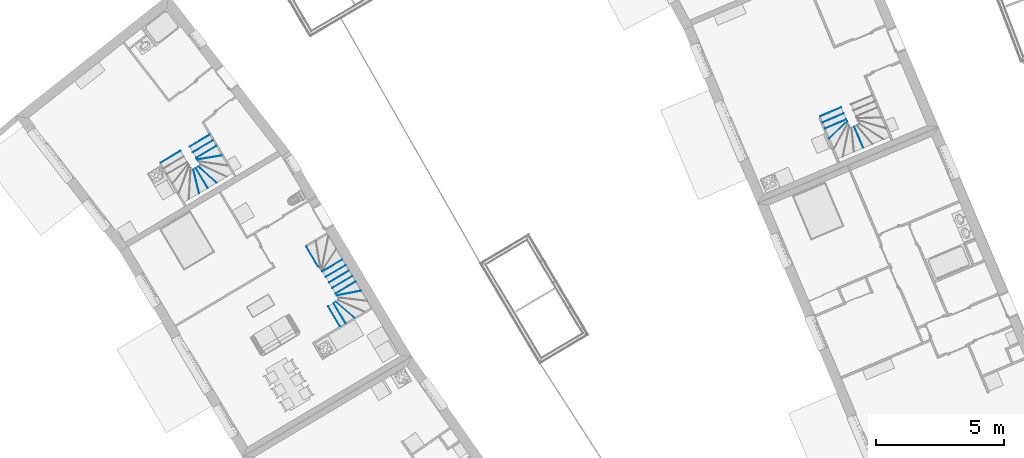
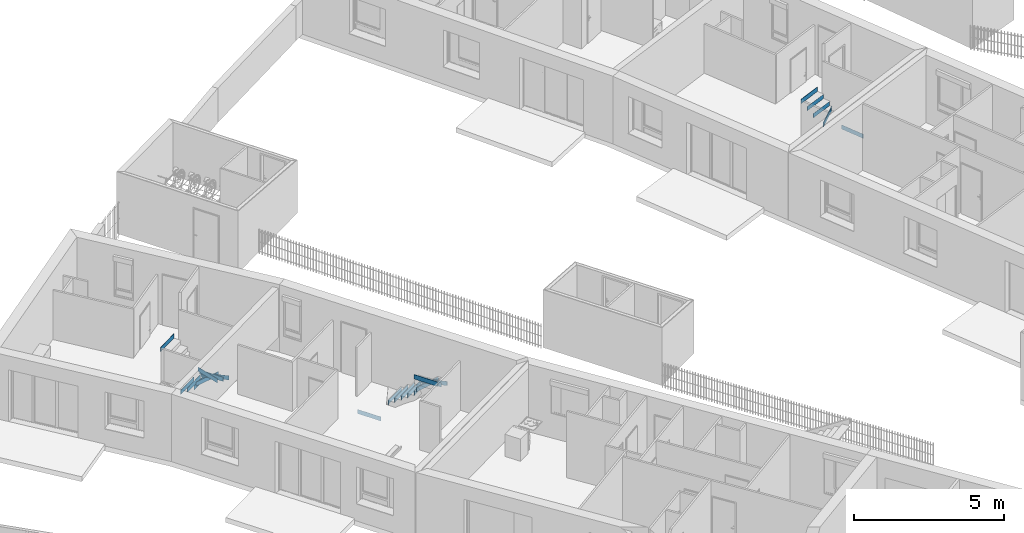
# One storey, part 104 of 195: 34 members, 5 elements without a shape of their own.
"""IFC2X3 building model written with IfcOpenShell, lengths in metres."""

from ifc_helpers import new_model, entity, si_unit, converted_unit, derived_unit, money_unit, direction, frame, origin_with_axes, place, context, subcontext, project, spatial, faceted_brep, material, type_object, element, aggregate, save


model = new_model("IFC2X3")

# Units and contexts
model_context = context("Model", 3, precision=1e-05, world=origin_with_axes(), true_north=direction((0.0, 1.0)))
body_context = subcontext(model_context, "Body", "Model", "MODEL_VIEW")
ifc_project = project(units=[si_unit("LENGTHUNIT", "METRE"), si_unit("AREAUNIT", "SQUARE_METRE"), si_unit("VOLUMEUNIT", "CUBIC_METRE"), converted_unit("PLANEANGLEUNIT", "DEGREE", entity("IfcPlaneAngleMeasure", 0.0174532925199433), si_unit("PLANEANGLEUNIT", "RADIAN"), dimensions=[0, 0, 0, 0, 0, 0, 0]), money_unit("CHF"), converted_unit("TIMEUNIT", "Year", entity("IfcTimeMeasure", 31557600.0), si_unit("TIMEUNIT", "SECOND"), dimensions=[0, 0, 1, 0, 0, 0, 0]), si_unit("MASSUNIT", "GRAM", prefix="KILO"), si_unit("THERMODYNAMICTEMPERATUREUNIT", "DEGREE_CELSIUS"), si_unit("LUMINOUSINTENSITYUNIT", "LUMEN"), si_unit("ENERGYUNIT", "JOULE", prefix="MEGA"), derived_unit("THERMALCONDUCTANCEUNIT", [(si_unit("POWERUNIT", "WATT"), 1), (si_unit("LENGTHUNIT", "METRE"), -1), (si_unit("THERMODYNAMICTEMPERATUREUNIT", "KELVIN"), -1)]), derived_unit("SPECIFICHEATCAPACITYUNIT", [(si_unit("ENERGYUNIT", "JOULE"), 1), (si_unit("MASSUNIT", "GRAM", prefix="KILO"), -1), (si_unit("THERMODYNAMICTEMPERATUREUNIT", "KELVIN"), -1)]), derived_unit("MASSDENSITYUNIT", [(si_unit("MASSUNIT", "GRAM", prefix="KILO"), 1), (si_unit("VOLUMEUNIT", "CUBIC_METRE"), -1)])], contexts=[model_context])

# Site, building, storey
site_placement = place(None, origin_with_axes())
site = spatial("IfcSite", under=ifc_project, at=site_placement, Name="Site", CompositionType="ELEMENT")
building_placement = place(site_placement, origin_with_axes())
building = spatial("IfcBuilding", under=site, at=building_placement, Name="Bâtiment", CompositionType="ELEMENT")
storey_placement = place(building_placement, origin_with_axes())
storey = spatial("IfcBuildingStorey", under=building, at=storey_placement, Name="rdc", CompositionType="ELEMENT", Elevation=0.0)

# Stair, members
stair_1_placement = place(storey_placement, frame((9545.76443159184, -1047.004357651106, 57.0), z_axis=(0.0, 0.0, 1.0), x_axis=(0.8590868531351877, 0.511829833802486, 0.0)))
stair_1 = element("IfcStair", 1, at=stair_1_placement, inside=storey, Name="ESC-014", ShapeType="NOTDEFINED")
ifc_material = material(Name="Lame d'air 275581351")
member_type = type_object("IfcMemberType", Name="IfcMember", PredefinedType="NOTDEFINED")
member_1_placement = place(stair_1_placement, frame((-0.068175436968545, -0.436061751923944, 0.1700000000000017), z_axis=(0.0, 0.0, 1.0), x_axis=(2.365001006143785e-07, -0.999999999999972, 0.0)))
member_1 = element("IfcMember", 2, at=member_1_placement, type_object=member_type, material=ifc_material, Name="C-MARCHE-231", context=body_context, shape_type="Brep", body=[
    faceted_brep([(0.4500000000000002, 0.01500000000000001, 0.0), (0.4500000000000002, 0.02500000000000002, 0.0), (-0.45, 0.02500000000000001, 0.0), (-0.45, 0.01500000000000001, 0.0), (0.4500000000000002, 0.01500000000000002, -0.17), (0.4500000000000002, 0.02500000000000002, -0.17), (-0.45, 0.02500000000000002, -0.17), (-0.45, 0.01500000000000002, -0.17)], [[[0, 1, 2, 3]], [[0, 4, 5, 1]], [[1, 5, 6, 2]], [[3, 2, 6, 7]], [[4, 0, 3, 7]], [[5, 4, 7, 6]]]),
])
member_2_placement = place(stair_1_placement, frame((0.4500002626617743, -1.111027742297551, 0.8900000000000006), z_axis=(0.0, 0.0, 1.0), x_axis=(-0.9999999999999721, -2.364139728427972e-07, 0.0)))
member_2 = element("IfcMember", 3, at=member_2_placement, type_object=member_type, material=ifc_material, Name="C-MARCHE-235", context=body_context, shape_type="Brep", body=[
    faceted_brep([(0.4500000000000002, 0.01500000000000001, 0.0), (0.4500000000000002, 0.02500000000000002, 0.0), (-0.45, 0.02500000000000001, 0.0), (-0.45, 0.01500000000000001, 0.0), (0.4500000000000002, 0.01500000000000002, -0.17), (0.4500000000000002, 0.02500000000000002, -0.17), (-0.45, 0.02500000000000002, -0.17), (-0.45, 0.01500000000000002, -0.17)], [[[0, 1, 2, 3]], [[0, 4, 5, 1]], [[1, 5, 6, 2]], [[3, 2, 6, 7]], [[4, 0, 3, 7]], [[5, 4, 7, 6]]]),
])
member_3_placement = place(stair_1_placement, frame((0.4500003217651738, -1.361027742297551, 1.07), z_axis=(0.0, 0.0, 1.0), x_axis=(-0.9999999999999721, -2.364139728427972e-07, 0.0)))
member_3 = element("IfcMember", 4, at=member_3_placement, type_object=member_type, material=ifc_material, Name="C-MARCHE-236", context=body_context, shape_type="Brep", body=[
    faceted_brep([(0.4500000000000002, 0.01500000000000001, 0.0), (0.4500000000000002, 0.02500000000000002, 0.0), (-0.45, 0.02500000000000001, 0.0), (-0.45, 0.01500000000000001, 0.0), (0.4500000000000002, 0.01500000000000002, -0.17), (0.4500000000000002, 0.02500000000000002, -0.17), (-0.45, 0.02500000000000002, -0.17), (-0.45, 0.01500000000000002, -0.17)], [[[0, 1, 2, 3]], [[0, 4, 5, 1]], [[1, 5, 6, 2]], [[3, 2, 6, 7]], [[4, 0, 3, 7]], [[5, 4, 7, 6]]]),
])
member_4_placement = place(stair_1_placement, frame((0.450000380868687, -1.611027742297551, 1.25), z_axis=(0.0, 0.0, 1.0), x_axis=(-0.9999999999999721, -2.364139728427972e-07, 0.0)))
member_4 = element("IfcMember", 5, at=member_4_placement, type_object=member_type, material=ifc_material, Name="C-MARCHE-237", context=body_context, shape_type="Brep", body=[
    faceted_brep([(0.4500000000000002, 0.01500000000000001, 0.0), (0.4500000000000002, 0.02500000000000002, 0.0), (-0.45, 0.02500000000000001, 0.0), (-0.45, 0.01500000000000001, 0.0), (0.4500000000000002, 0.01500000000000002, -0.17), (0.4500000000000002, 0.02500000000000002, -0.17), (-0.45, 0.02500000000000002, -0.17), (-0.45, 0.01500000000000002, -0.17)], [[[0, 1, 2, 3]], [[0, 4, 5, 1]], [[1, 5, 6, 2]], [[3, 2, 6, 7]], [[4, 0, 3, 7]], [[5, 4, 7, 6]]]),
])
member_5_placement = place(stair_1_placement, frame((0.4500004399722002, -1.861027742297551, 1.43), z_axis=(0.0, 0.0, 1.0), x_axis=(-0.9999999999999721, -2.364139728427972e-07, 0.0)))
member_5 = element("IfcMember", 6, at=member_5_placement, type_object=member_type, material=ifc_material, Name="C-MARCHE-238", context=body_context, shape_type="Brep", body=[
    faceted_brep([(0.4500000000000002, 0.01500000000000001, 0.0), (0.4500000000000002, 0.02500000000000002, 0.0), (-0.45, 0.02500000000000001, 0.0), (-0.45, 0.01500000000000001, 0.0), (0.4500000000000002, 0.01500000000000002, -0.17), (0.4500000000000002, 0.02500000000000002, -0.17), (-0.45, 0.02500000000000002, -0.17), (-0.45, 0.01500000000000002, -0.17)], [[[0, 1, 2, 3]], [[0, 4, 5, 1]], [[1, 5, 6, 2]], [[3, 2, 6, 7]], [[4, 0, 3, 7]], [[5, 4, 7, 6]]]),
])
member_6_placement = place(stair_1_placement, frame((0.4500004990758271, -2.111027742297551, 1.609999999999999), z_axis=(0.0, 0.0, 1.0), x_axis=(-0.9999999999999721, -2.364139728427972e-07, 0.0)))
member_6 = element("IfcMember", 7, at=member_6_placement, type_object=member_type, material=ifc_material, Name="C-MARCHE-239", context=body_context, shape_type="Brep", body=[
    faceted_brep([(0.4500000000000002, 0.01500000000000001, 0.0), (0.4500000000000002, 0.02500000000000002, 0.0), (-0.45, 0.02500000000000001, 0.0), (-0.45, 0.01500000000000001, 0.0), (0.4500000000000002, 0.01500000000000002, -0.17), (0.4500000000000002, 0.02500000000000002, -0.17), (-0.45, 0.02500000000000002, -0.17), (-0.45, 0.01500000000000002, -0.17)], [[[0, 1, 2, 3]], [[0, 4, 5, 1]], [[1, 5, 6, 2]], [[3, 2, 6, 7]], [[4, 0, 3, 7]], [[5, 4, 7, 6]]]),
])
member_7_placement = place(stair_1_placement, frame((0.4500005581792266, -2.361027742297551, 1.789999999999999), z_axis=(0.0, 0.0, 1.0), x_axis=(-0.9401689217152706, 0.3407086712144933, 0.0)))
member_7 = element("IfcMember", 8, at=member_7_placement, type_object=member_type, material=ifc_material, Name="C-MARCHE-240", context=body_context, shape_type="Brep", body=[
    faceted_brep([(0.4732015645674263, 0.01500000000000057, 0.0), (0.4695776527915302, 0.02500000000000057, 0.0), (-0.4876972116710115, 0.02500000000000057, 0.0), (-0.4840732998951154, 0.01500000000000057, 0.0), (0.4732015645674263, 0.01500000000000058, -0.1700000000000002), (0.4695776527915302, 0.02500000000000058, -0.1700000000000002), (-0.4876972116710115, 0.02500000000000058, -0.1700000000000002), (-0.4840732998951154, 0.01500000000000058, -0.1700000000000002)], [[[0, 1, 2, 3]], [[0, 4, 5, 1]], [[1, 5, 6, 2]], [[3, 2, 6, 7]], [[4, 0, 3, 7]], [[5, 4, 7, 6]]]),
])
member_8_placement = place(stair_1_placement, frame((0.01013755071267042, -2.864193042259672, 2.329999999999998), z_axis=(0.0, 0.0, 1.0), x_axis=(-0.315030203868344, 0.94908164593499, 0.0)))
member_8 = element("IfcMember", 9, at=member_8_placement, type_object=member_type, material=ifc_material, Name="C-MARCHE-243", context=body_context, shape_type="Brep", body=[
    faceted_brep([(0.4790011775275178, 0.01500000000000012, 0.0), (0.4823204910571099, 0.02500000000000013, 0.0), (-0.4659645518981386, 0.02499999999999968, 0.0), (-0.4692838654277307, 0.01499999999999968, 0.0), (0.4790011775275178, 0.01500000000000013, -0.1700000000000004), (0.4823204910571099, 0.02500000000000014, -0.1700000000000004), (-0.4659645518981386, 0.02499999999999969, -0.1700000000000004), (-0.4692838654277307, 0.01499999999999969, -0.1700000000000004)], [[[0, 1, 2, 3]], [[0, 4, 5, 1]], [[1, 5, 6, 2]], [[3, 2, 6, 7]], [[4, 0, 3, 7]], [[5, 4, 7, 6]]]),
])
member_9_placement = place(stair_1_placement, frame((-0.2398615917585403, -2.864307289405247, 2.509999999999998), z_axis=(0.0, 0.0, 1.0), x_axis=(-2.363824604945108e-07, 0.9999999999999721, 0.0)))
member_9 = element("IfcMember", 10, at=member_9_placement, type_object=member_type, material=ifc_material, Name="C-MARCHE-244", context=body_context, shape_type="Brep", body=[
    faceted_brep([(0.4500000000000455, 0.01500000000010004, 0.0), (0.4500000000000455, 0.02499999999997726, 0.0), (-0.4499999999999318, 0.02499999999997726, 0.0), (-0.4499999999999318, 0.01499999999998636, 0.0), (0.4500000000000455, 0.01500000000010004, -0.1700000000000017), (0.4500000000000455, 0.02499999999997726, -0.1700000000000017), (-0.4499999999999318, 0.02499999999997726, -0.1700000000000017), (-0.4499999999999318, 0.01499999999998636, -0.1700000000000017)], [[[0, 1, 2, 3]], [[0, 4, 5, 1]], [[1, 5, 6, 2]], [[3, 2, 6, 7]], [[4, 0, 3, 7]], [[5, 4, 7, 6]]]),
])
member_10_placement = place(stair_1_placement, frame((-0.489861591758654, -2.864307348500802, 2.700000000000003), z_axis=(0.0, 0.0, 1.0), x_axis=(-2.363824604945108e-07, 0.9999999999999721, 0.0)))
member_10 = element("IfcMember", 11, at=member_10_placement, type_object=member_type, material=ifc_material, Name="C-MARCHE-245", context=body_context, shape_type="Brep", body=[
    faceted_brep([(0.4499999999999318, 0.01499999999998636, 0.0), (0.4499999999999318, 0.02499999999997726, 0.0), (-0.4500000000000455, 0.02499999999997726, 0.0), (-0.4500000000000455, 0.01499999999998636, 0.0), (0.4499999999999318, 0.01499999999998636, -0.1799999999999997), (0.4499999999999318, 0.02499999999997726, -0.1799999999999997), (-0.4500000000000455, 0.02499999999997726, -0.1799999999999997), (-0.4500000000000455, 0.01499999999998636, -0.1799999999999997)], [[[0, 1, 2, 3]], [[0, 4, 5, 1]], [[1, 5, 6, 2]], [[3, 2, 6, 7]], [[4, 0, 3, 7]], [[5, 4, 7, 6]]]),
])
aggregate(stair_1, [member_1, member_2, member_3, member_4, member_5, member_6, member_7, member_8, member_9, member_10])

stair_2_placement = place(storey_placement, frame((9542.358293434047, -1043.385861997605, 57.0), z_axis=(0.0, 0.0, 1.0), x_axis=(0.5118296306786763, -0.8590869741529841, 0.0)))
stair_2 = element("IfcStair", 12, at=stair_2_placement, inside=storey, Name="ESC-014", ShapeType="NOTDEFINED")
member_11_placement = place(stair_2_placement, frame((-0.6126475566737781, -0.4260618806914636, 0.3500000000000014), z_axis=(0.0, 0.0, 1.0), x_axis=(2.365009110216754e-07, -0.9999999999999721, 0.0)))
member_11 = element("IfcMember", 13, at=member_11_placement, type_object=member_type, material=ifc_material, Name="C-MARCHE-232", context=body_context, shape_type="Brep", body=[
    faceted_brep([(0.46, 0.01500000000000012, 0.0), (0.46, 0.02500000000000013, 0.0), (-0.44, 0.02500000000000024, 0.0), (-0.44, 0.01500000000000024, 0.0), (0.46, 0.01500000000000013, -0.17), (0.46, 0.02500000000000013, -0.17), (-0.44, 0.02500000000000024, -0.17), (-0.44, 0.01500000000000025, -0.17)], [[[0, 1, 2, 3]], [[0, 4, 5, 1]], [[1, 5, 6, 2]], [[3, 2, 6, 7]], [[4, 0, 3, 7]], [[5, 4, 7, 6]]]),
])
member_12_placement = place(stair_2_placement, frame((-0.3574523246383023, -0.4260618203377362, 0.5300000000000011), z_axis=(0.0, 0.0, 1.0), x_axis=(2.3650091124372e-07, -0.9999999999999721, 0.0)))
member_12 = element("IfcMember", 14, at=member_12_placement, type_object=member_type, material=ifc_material, Name="C-MARCHE-233", context=body_context, shape_type="Brep", body=[
    faceted_brep([(0.46, 0.01500000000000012, 0.0), (0.46, 0.02500000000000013, 0.0), (-0.44, 0.02500000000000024, 0.0), (-0.44, 0.01500000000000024, 0.0), (0.46, 0.01500000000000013, -0.17), (0.46, 0.02500000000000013, -0.17), (-0.44, 0.02500000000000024, -0.17), (-0.44, 0.01500000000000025, -0.17)], [[[0, 1, 2, 3]], [[0, 4, 5, 1]], [[1, 5, 6, 2]], [[3, 2, 6, 7]], [[4, 0, 3, 7]], [[5, 4, 7, 6]]]),
])
member_13_placement = place(stair_2_placement, frame((-0.1022570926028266, -0.4260617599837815, 0.7100000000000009), z_axis=(0.0, 0.0, 1.0), x_axis=(-0.362570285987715, -0.9319564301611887, 0.0)))
member_13 = element("IfcMember", 15, at=member_13_placement, type_object=member_type, material=ifc_material, Name="C-MARCHE-234", context=body_context, shape_type="Brep", body=[
    faceted_brep([(0.4877497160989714, 0.01500000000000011, 0.0), (0.483859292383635, 0.02500000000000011, 0.0), (-0.4818511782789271, 0.02500000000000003, 0.0), (-0.4779607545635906, 0.01500000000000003, 0.0), (0.4877497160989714, 0.01500000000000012, -0.17), (0.483859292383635, 0.02500000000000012, -0.17), (-0.4818511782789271, 0.02500000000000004, -0.17), (-0.4779607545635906, 0.01500000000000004, -0.17)], [[[0, 1, 2, 3]], [[0, 4, 5, 1]], [[1, 5, 6, 2]], [[3, 2, 6, 7]], [[4, 0, 3, 7]], [[5, 4, 7, 6]]]),
])
member_14_placement = place(stair_2_placement, frame((0.4561912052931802, -0.8269874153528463, 1.25), z_axis=(0.0, 0.0, 1.0), x_axis=(-0.9542231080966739, -0.2990957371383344, 0.0)))
member_14 = element("IfcMember", 16, at=member_14_placement, type_object=member_type, material=ifc_material, Name="C-MARCHE-237", context=body_context, shape_type="Brep", body=[
    faceted_brep([(0.4827774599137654, 0.01499999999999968, 0.0), (0.4859118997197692, 0.02499999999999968, 0.0), (-0.4572636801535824, 0.02499999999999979, 0.0), (-0.4603981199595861, 0.01499999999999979, 0.0), (0.4827774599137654, 0.01499999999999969, -0.1700000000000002), (0.4859118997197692, 0.02499999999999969, -0.1700000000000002), (-0.4572636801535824, 0.0249999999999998, -0.1700000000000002), (-0.4603981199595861, 0.0149999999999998, -0.1700000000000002)], [[[0, 1, 2, 3]], [[0, 4, 5, 1]], [[1, 5, 6, 2]], [[3, 2, 6, 7]], [[4, 0, 3, 7]], [[5, 4, 7, 6]]]),
])
member_15_placement = place(stair_2_placement, frame((0.4600002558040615, -1.082019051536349, 1.43), z_axis=(0.0, 0.0, 1.0), x_axis=(-0.9999999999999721, -2.364141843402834e-07, 0.0)))
member_15 = element("IfcMember", 17, at=member_15_placement, type_object=member_type, material=ifc_material, Name="C-MARCHE-238", context=body_context, shape_type="Brep", body=[
    faceted_brep([(0.46, 0.01500000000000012, 0.0), (0.46, 0.02500000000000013, 0.0), (-0.44, 0.02500000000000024, 0.0), (-0.44, 0.01500000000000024, 0.0), (0.46, 0.01500000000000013, -0.17), (0.46, 0.02500000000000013, -0.17), (-0.44, 0.02500000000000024, -0.17), (-0.44, 0.01500000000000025, -0.17)], [[[0, 1, 2, 3]], [[0, 4, 5, 1]], [[1, 5, 6, 2]], [[3, 2, 6, 7]], [[4, 0, 3, 7]], [[5, 4, 7, 6]]]),
])
member_16_placement = place(stair_2_placement, frame((0.4561913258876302, -1.337050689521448, 1.609999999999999), z_axis=(0.0, 0.0, 1.0), x_axis=(-0.954223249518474, 0.299095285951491, 0.0)))
member_16 = element("IfcMember", 18, at=member_16_placement, type_object=member_type, material=ifc_material, Name="C-MARCHE-239", context=body_context, shape_type="Brep", body=[
    faceted_brep([(0.4733741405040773, 0.01500000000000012, 0.0), (0.4702397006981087, 0.02500000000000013, 0.0), (-0.4729358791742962, 0.0249999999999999, 0.0), (-0.4698014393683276, 0.0149999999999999, 0.0), (0.4733741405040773, 0.01500000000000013, -0.1699999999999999), (0.4702397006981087, 0.02500000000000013, -0.1699999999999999), (-0.4729358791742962, 0.02499999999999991, -0.1699999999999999), (-0.4698014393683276, 0.01499999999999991, -0.1699999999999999)], [[[0, 1, 2, 3]], [[0, 4, 5, 1]], [[1, 5, 6, 2]], [[3, 2, 6, 7]], [[4, 0, 3, 7]], [[5, 4, 7, 6]]]),
])
member_17_placement = place(stair_2_placement, frame((-0.8678427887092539, -0.426061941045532, 0.1700000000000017), z_axis=(0.0, 0.0, 1.0), x_axis=(2.365009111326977e-07, -0.999999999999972, 0.0)))
member_17 = element("IfcMember", 19, at=member_17_placement, type_object=member_type, material=ifc_material, Name="C-MARCHE-231", context=body_context, shape_type="Brep", body=[
    faceted_brep([(0.46, 0.01500000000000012, 0.0), (0.46, 0.02500000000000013, 0.0), (-0.44, 0.02500000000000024, 0.0), (-0.44, 0.01500000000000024, 0.0), (0.46, 0.01500000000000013, -0.17), (0.46, 0.02500000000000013, -0.17), (-0.44, 0.02500000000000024, -0.17), (-0.44, 0.01500000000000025, -0.17)], [[[0, 1, 2, 3]], [[0, 4, 5, 1]], [[1, 5, 6, 2]], [[3, 2, 6, 7]], [[4, 0, 3, 7]], [[5, 4, 7, 6]]]),
])
aggregate(stair_2, [member_11, member_12, member_13, member_14, member_15, member_16, member_17])

stair_3_placement = place(storey_placement, frame((9568.089270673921, -1041.901953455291, 57.0), z_axis=(0.0, 0.0, 1.0), x_axis=(0.3885666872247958, -0.9214206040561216, 0.0)))
stair_3 = element("IfcStair", 20, at=stair_3_placement, inside=storey, Name="ESC-014", ShapeType="NOTDEFINED")
member_18_placement = place(stair_3_placement, frame((0.4600002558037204, -1.082019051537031, 1.43), z_axis=(0.0, 0.0, 1.0), x_axis=(-0.9999999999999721, -2.364141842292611e-07, 0.0)))
member_18 = element("IfcMember", 21, at=member_18_placement, type_object=member_type, material=ifc_material, Name="C-MARCHE-238", context=body_context, shape_type="Brep", body=[
    faceted_brep([(0.4599999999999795, 0.01499999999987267, 0.0), (0.4600000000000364, 0.02499999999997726, 0.0), (-0.4400000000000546, 0.02499999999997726, 0.0), (-0.4399999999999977, 0.01499999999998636, 0.0), (0.4599999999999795, 0.01499999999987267, -0.1700000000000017), (0.4600000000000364, 0.02499999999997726, -0.1700000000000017), (-0.4400000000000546, 0.02499999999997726, -0.1700000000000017), (-0.4399999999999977, 0.01499999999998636, -0.1700000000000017)], [[[0, 1, 2, 3]], [[0, 4, 5, 1]], [[1, 5, 6, 2]], [[3, 2, 6, 7]], [[4, 0, 3, 7]], [[5, 4, 7, 6]]]),
])
member_19_placement = place(stair_3_placement, frame((-0.102256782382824, -1.737976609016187, 2.149999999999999), z_axis=(0.0, 0.0, 1.0), x_axis=(-0.3625707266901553, 0.9319562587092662, 0.0)))
member_19 = element("IfcMember", 22, at=member_19_placement, type_object=member_type, material=ifc_material, Name="C-MARCHE-242", context=body_context, shape_type="Brep", body=[
    faceted_brep([(0.4994209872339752, 0.01500000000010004, 0.0), (0.5033114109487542, 0.02500000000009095, 0.0), (-0.4623990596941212, 0.02500000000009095, 0.0), (-0.4662894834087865, 0.01499999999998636, 0.0), (0.4994209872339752, 0.01500000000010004, -0.1700000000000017), (0.5033114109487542, 0.02500000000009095, -0.1700000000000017), (-0.4623990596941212, 0.02500000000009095, -0.1700000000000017), (-0.4662894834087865, 0.01499999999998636, -0.1700000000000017)], [[[0, 1, 2, 3]], [[0, 4, 5, 1]], [[1, 5, 6, 2]], [[3, 2, 6, 7]], [[4, 0, 3, 7]], [[5, 4, 7, 6]]]),
])
member_20_placement = place(stair_3_placement, frame((-0.3574520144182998, -1.737976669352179, 2.329999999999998), z_axis=(0.0, 0.0, 1.0), x_axis=(-2.36430376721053e-07, 0.9999999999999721, 0.0)))
member_20 = element("IfcMember", 23, at=member_20_placement, type_object=member_type, material=ifc_material, Name="C-MARCHE-243", context=body_context, shape_type="Brep", body=[
    faceted_brep([(0.4599999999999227, 0.01499999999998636, 0.0), (0.4600000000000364, 0.02500000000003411, 0.0), (-0.4399999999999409, 0.02499999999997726, 0.0), (-0.4399999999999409, 0.01499999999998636, 0.0), (0.4599999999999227, 0.01499999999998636, -0.1700000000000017), (0.4600000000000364, 0.02500000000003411, -0.1700000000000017), (-0.4399999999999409, 0.02499999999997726, -0.1700000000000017), (-0.4399999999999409, 0.01499999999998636, -0.1700000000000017)], [[[0, 1, 2, 3]], [[0, 4, 5, 1]], [[1, 5, 6, 2]], [[3, 2, 6, 7]], [[4, 0, 3, 7]], [[5, 4, 7, 6]]]),
])
member_21_placement = place(stair_3_placement, frame((-0.8678424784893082, -1.737976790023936, 2.700000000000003), z_axis=(0.0, 0.0, 1.0), x_axis=(-2.36430376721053e-07, 0.9999999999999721, 0.0)))
member_21 = element("IfcMember", 24, at=member_21_placement, type_object=member_type, material=ifc_material, Name="C-MARCHE-245", context=body_context, shape_type="Brep", body=[
    faceted_brep([(0.4600000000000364, 0.01499999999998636, 0.0), (0.4599999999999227, 0.02499999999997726, 0.0), (-0.4400000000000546, 0.02499999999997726, 0.0), (-0.4400000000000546, 0.01499999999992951, 0.0), (0.4600000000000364, 0.01499999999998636, -0.1799999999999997), (0.4599999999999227, 0.02499999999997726, -0.1799999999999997), (-0.4400000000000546, 0.02499999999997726, -0.1799999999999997), (-0.4400000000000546, 0.01499999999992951, -0.1799999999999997)], [[[0, 1, 2, 3]], [[0, 4, 5, 1]], [[1, 5, 6, 2]], [[3, 2, 6, 7]], [[4, 0, 3, 7]], [[5, 4, 7, 6]]]),
])
member_22_placement = place(stair_3_placement, frame((-0.6126472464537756, -1.737976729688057, 2.509999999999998), z_axis=(0.0, 0.0, 1.0), x_axis=(-2.36430376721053e-07, 0.9999999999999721, 0.0)))
member_22 = element("IfcMember", 25, at=member_22_placement, type_object=member_type, material=ifc_material, Name="C-MARCHE-244", context=body_context, shape_type="Brep", body=[
    faceted_brep([(0.4599999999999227, 0.0150000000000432, 0.0), (0.4599999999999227, 0.02499999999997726, 0.0), (-0.4399999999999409, 0.02499999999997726, 0.0), (-0.4399999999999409, 0.01499999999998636, 0.0), (0.4599999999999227, 0.0150000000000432, -0.1700000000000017), (0.4599999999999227, 0.02499999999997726, -0.1700000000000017), (-0.4399999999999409, 0.02499999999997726, -0.1700000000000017), (-0.4399999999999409, 0.01499999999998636, -0.1700000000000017)], [[[0, 1, 2, 3]], [[0, 4, 5, 1]], [[1, 5, 6, 2]], [[3, 2, 6, 7]], [[4, 0, 3, 7]], [[5, 4, 7, 6]]]),
])
aggregate(stair_3, [member_18, member_19, member_20, member_21, member_22])

stair_4_placement = place(storey_placement, frame((9542.358293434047, -1043.385861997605, 57.0), z_axis=(0.0, 0.0, 1.0), x_axis=(0.5118296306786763, -0.8590869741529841, 0.0)))
stair_4 = element("IfcStair", 26, at=stair_4_placement, inside=storey, Name="ESC-014", ShapeType="NOTDEFINED")
member_23_placement = place(stair_4_placement, frame((-0.6126475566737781, -0.4260618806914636, 0.3500000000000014), z_axis=(0.0, 0.0, 1.0), x_axis=(2.365009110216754e-07, -0.9999999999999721, 0.0)))
member_23 = element("IfcMember", 27, at=member_23_placement, type_object=member_type, material=ifc_material, Name="C-MARCHE-232", context=body_context, shape_type="Brep", body=[
    faceted_brep([(0.46, 0.01500000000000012, 0.0), (0.46, 0.02500000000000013, 0.0), (-0.44, 0.02500000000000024, 0.0), (-0.44, 0.01500000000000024, 0.0), (0.46, 0.01500000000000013, -0.17), (0.46, 0.02500000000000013, -0.17), (-0.44, 0.02500000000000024, -0.17), (-0.44, 0.01500000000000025, -0.17)], [[[0, 1, 2, 3]], [[0, 4, 5, 1]], [[1, 5, 6, 2]], [[3, 2, 6, 7]], [[4, 0, 3, 7]], [[5, 4, 7, 6]]]),
])
member_24_placement = place(stair_4_placement, frame((-0.3574523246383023, -0.4260618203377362, 0.5300000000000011), z_axis=(0.0, 0.0, 1.0), x_axis=(2.3650091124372e-07, -0.9999999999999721, 0.0)))
member_24 = element("IfcMember", 28, at=member_24_placement, type_object=member_type, material=ifc_material, Name="C-MARCHE-233", context=body_context, shape_type="Brep", body=[
    faceted_brep([(0.46, 0.01500000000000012, 0.0), (0.46, 0.02500000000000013, 0.0), (-0.44, 0.02500000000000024, 0.0), (-0.44, 0.01500000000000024, 0.0), (0.46, 0.01500000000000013, -0.17), (0.46, 0.02500000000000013, -0.17), (-0.44, 0.02500000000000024, -0.17), (-0.44, 0.01500000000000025, -0.17)], [[[0, 1, 2, 3]], [[0, 4, 5, 1]], [[1, 5, 6, 2]], [[3, 2, 6, 7]], [[4, 0, 3, 7]], [[5, 4, 7, 6]]]),
])
member_25_placement = place(stair_4_placement, frame((-0.8678427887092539, -0.426061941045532, 0.1700000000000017), z_axis=(0.0, 0.0, 1.0), x_axis=(2.365009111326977e-07, -0.999999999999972, 0.0)))
member_25 = element("IfcMember", 29, at=member_25_placement, type_object=member_type, material=ifc_material, Name="C-MARCHE-231", context=body_context, shape_type="Brep", body=[
    faceted_brep([(0.46, 0.01500000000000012, 0.0), (0.46, 0.02500000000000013, 0.0), (-0.44, 0.02500000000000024, 0.0), (-0.44, 0.01500000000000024, 0.0), (0.46, 0.01500000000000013, -0.17), (0.46, 0.02500000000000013, -0.17), (-0.44, 0.02500000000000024, -0.17), (-0.44, 0.01500000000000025, -0.17)], [[[0, 1, 2, 3]], [[0, 4, 5, 1]], [[1, 5, 6, 2]], [[3, 2, 6, 7]], [[4, 0, 3, 7]], [[5, 4, 7, 6]]]),
])
member_26_placement = place(stair_4_placement, frame((-0.1022570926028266, -0.4260617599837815, 0.7100000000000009), z_axis=(0.0, 0.0, 1.0), x_axis=(-0.362570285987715, -0.9319564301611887, 0.0)))
member_26 = element("IfcMember", 30, at=member_26_placement, type_object=member_type, material=ifc_material, Name="C-MARCHE-234", context=body_context, shape_type="Brep", body=[
    faceted_brep([(0.4877497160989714, 0.01500000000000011, 0.0), (0.483859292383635, 0.02500000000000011, 0.0), (-0.4818511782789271, 0.02500000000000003, 0.0), (-0.4779607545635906, 0.01500000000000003, 0.0), (0.4877497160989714, 0.01500000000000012, -0.17), (0.483859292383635, 0.02500000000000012, -0.17), (-0.4818511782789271, 0.02500000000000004, -0.17), (-0.4779607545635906, 0.01500000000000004, -0.17)], [[[0, 1, 2, 3]], [[0, 4, 5, 1]], [[1, 5, 6, 2]], [[3, 2, 6, 7]], [[4, 0, 3, 7]], [[5, 4, 7, 6]]]),
])
member_27_placement = place(stair_4_placement, frame((0.4561912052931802, -0.8269874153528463, 1.25), z_axis=(0.0, 0.0, 1.0), x_axis=(-0.9542231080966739, -0.2990957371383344, 0.0)))
member_27 = element("IfcMember", 31, at=member_27_placement, type_object=member_type, material=ifc_material, Name="C-MARCHE-237", context=body_context, shape_type="Brep", body=[
    faceted_brep([(0.4827774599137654, 0.01499999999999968, 0.0), (0.4859118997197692, 0.02499999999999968, 0.0), (-0.4572636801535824, 0.02499999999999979, 0.0), (-0.4603981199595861, 0.01499999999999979, 0.0), (0.4827774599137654, 0.01499999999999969, -0.1700000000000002), (0.4859118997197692, 0.02499999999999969, -0.1700000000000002), (-0.4572636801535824, 0.0249999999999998, -0.1700000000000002), (-0.4603981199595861, 0.0149999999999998, -0.1700000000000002)], [[[0, 1, 2, 3]], [[0, 4, 5, 1]], [[1, 5, 6, 2]], [[3, 2, 6, 7]], [[4, 0, 3, 7]], [[5, 4, 7, 6]]]),
])
member_28_placement = place(stair_4_placement, frame((0.4600002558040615, -1.082019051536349, 1.43), z_axis=(0.0, 0.0, 1.0), x_axis=(-0.9999999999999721, -2.364141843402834e-07, 0.0)))
member_28 = element("IfcMember", 32, at=member_28_placement, type_object=member_type, material=ifc_material, Name="C-MARCHE-238", context=body_context, shape_type="Brep", body=[
    faceted_brep([(0.46, 0.01500000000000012, 0.0), (0.46, 0.02500000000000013, 0.0), (-0.44, 0.02500000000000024, 0.0), (-0.44, 0.01500000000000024, 0.0), (0.46, 0.01500000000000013, -0.17), (0.46, 0.02500000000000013, -0.17), (-0.44, 0.02500000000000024, -0.17), (-0.44, 0.01500000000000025, -0.17)], [[[0, 1, 2, 3]], [[0, 4, 5, 1]], [[1, 5, 6, 2]], [[3, 2, 6, 7]], [[4, 0, 3, 7]], [[5, 4, 7, 6]]]),
])
member_29_placement = place(stair_4_placement, frame((0.4561913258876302, -1.337050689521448, 1.609999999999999), z_axis=(0.0, 0.0, 1.0), x_axis=(-0.954223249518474, 0.299095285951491, 0.0)))
member_29 = element("IfcMember", 33, at=member_29_placement, type_object=member_type, material=ifc_material, Name="C-MARCHE-239", context=body_context, shape_type="Brep", body=[
    faceted_brep([(0.4733741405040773, 0.01500000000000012, 0.0), (0.4702397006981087, 0.02500000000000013, 0.0), (-0.4729358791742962, 0.0249999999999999, 0.0), (-0.4698014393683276, 0.0149999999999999, 0.0), (0.4733741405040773, 0.01500000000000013, -0.1699999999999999), (0.4702397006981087, 0.02500000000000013, -0.1699999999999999), (-0.4729358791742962, 0.02499999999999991, -0.1699999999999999), (-0.4698014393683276, 0.01499999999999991, -0.1699999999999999)], [[[0, 1, 2, 3]], [[0, 4, 5, 1]], [[1, 5, 6, 2]], [[3, 2, 6, 7]], [[4, 0, 3, 7]], [[5, 4, 7, 6]]]),
])
member_30_placement = place(stair_4_placement, frame((-0.8678424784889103, -1.737976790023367, 2.700000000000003), z_axis=(0.0, 0.0, 1.0), x_axis=(-2.364303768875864e-07, 0.9999999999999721, 0.0)))
member_30 = element("IfcMember", 34, at=member_30_placement, type_object=member_type, material=ifc_material, Name="C-MARCHE-245", context=body_context, shape_type="Brep", body=[
    faceted_brep([(0.4599999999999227, 0.01499999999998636, 0.0), (0.4599999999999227, 0.02499999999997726, 0.0), (-0.4400000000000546, 0.02499999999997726, 0.0), (-0.4400000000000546, 0.01499999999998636, 0.0), (0.4599999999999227, 0.01499999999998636, -0.1799999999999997), (0.4599999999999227, 0.02499999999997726, -0.1799999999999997), (-0.4400000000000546, 0.02499999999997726, -0.1799999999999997), (-0.4400000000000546, 0.01499999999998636, -0.1799999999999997)], [[[0, 1, 2, 3]], [[0, 4, 5, 1]], [[1, 5, 6, 2]], [[3, 2, 6, 7]], [[4, 0, 3, 7]], [[5, 4, 7, 6]]]),
])
aggregate(stair_4, [member_23, member_24, member_25, member_26, member_27, member_28, member_29, member_30])

stair_5_placement = place(storey_placement, frame((9568.089270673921, -1041.901953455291, 57.0), z_axis=(0.0, 0.0, 1.0), x_axis=(0.3885666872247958, -0.9214206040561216, 0.0)))
stair_5 = element("IfcStair", 35, at=stair_5_placement, inside=storey, Name="ESC-014", ShapeType="NOTDEFINED")
member_31_placement = place(stair_5_placement, frame((-0.102256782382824, -1.737976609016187, 2.149999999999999), z_axis=(0.0, 0.0, 1.0), x_axis=(-0.3625707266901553, 0.9319562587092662, 0.0)))
member_31 = element("IfcMember", 36, at=member_31_placement, type_object=member_type, material=ifc_material, Name="C-MARCHE-242", context=body_context, shape_type="Brep", body=[
    faceted_brep([(0.4994209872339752, 0.01500000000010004, 0.0), (0.5033114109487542, 0.02500000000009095, 0.0), (-0.4623990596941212, 0.02500000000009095, 0.0), (-0.4662894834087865, 0.01499999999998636, 0.0), (0.4994209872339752, 0.01500000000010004, -0.1700000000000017), (0.5033114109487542, 0.02500000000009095, -0.1700000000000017), (-0.4623990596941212, 0.02500000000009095, -0.1700000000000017), (-0.4662894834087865, 0.01499999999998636, -0.1700000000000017)], [[[0, 1, 2, 3]], [[0, 4, 5, 1]], [[1, 5, 6, 2]], [[3, 2, 6, 7]], [[4, 0, 3, 7]], [[5, 4, 7, 6]]]),
])
member_32_placement = place(stair_5_placement, frame((-0.3574520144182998, -1.737976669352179, 2.329999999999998), z_axis=(0.0, 0.0, 1.0), x_axis=(-2.36430376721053e-07, 0.9999999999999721, 0.0)))
member_32 = element("IfcMember", 37, at=member_32_placement, type_object=member_type, material=ifc_material, Name="C-MARCHE-243", context=body_context, shape_type="Brep", body=[
    faceted_brep([(0.4599999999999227, 0.01499999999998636, 0.0), (0.4600000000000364, 0.02500000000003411, 0.0), (-0.4399999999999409, 0.02499999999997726, 0.0), (-0.4399999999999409, 0.01499999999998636, 0.0), (0.4599999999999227, 0.01499999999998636, -0.1700000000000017), (0.4600000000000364, 0.02500000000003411, -0.1700000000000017), (-0.4399999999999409, 0.02499999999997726, -0.1700000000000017), (-0.4399999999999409, 0.01499999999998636, -0.1700000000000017)], [[[0, 1, 2, 3]], [[0, 4, 5, 1]], [[1, 5, 6, 2]], [[3, 2, 6, 7]], [[4, 0, 3, 7]], [[5, 4, 7, 6]]]),
])
member_33_placement = place(stair_5_placement, frame((-0.6126472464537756, -1.737976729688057, 2.509999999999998), z_axis=(0.0, 0.0, 1.0), x_axis=(-2.36430376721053e-07, 0.9999999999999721, 0.0)))
member_33 = element("IfcMember", 38, at=member_33_placement, type_object=member_type, material=ifc_material, Name="C-MARCHE-244", context=body_context, shape_type="Brep", body=[
    faceted_brep([(0.4599999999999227, 0.0150000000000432, 0.0), (0.4599999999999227, 0.02499999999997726, 0.0), (-0.4399999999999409, 0.02499999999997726, 0.0), (-0.4399999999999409, 0.01499999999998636, 0.0), (0.4599999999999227, 0.0150000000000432, -0.1700000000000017), (0.4599999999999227, 0.02499999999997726, -0.1700000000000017), (-0.4399999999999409, 0.02499999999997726, -0.1700000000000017), (-0.4399999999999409, 0.01499999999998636, -0.1700000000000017)], [[[0, 1, 2, 3]], [[0, 4, 5, 1]], [[1, 5, 6, 2]], [[3, 2, 6, 7]], [[4, 0, 3, 7]], [[5, 4, 7, 6]]]),
])
member_34_placement = place(stair_5_placement, frame((-0.8678424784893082, -1.737976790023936, 2.700000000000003), z_axis=(0.0, 0.0, 1.0), x_axis=(-2.36430376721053e-07, 0.9999999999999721, 0.0)))
member_34 = element("IfcMember", 39, at=member_34_placement, type_object=member_type, material=ifc_material, Name="C-MARCHE-245", context=body_context, shape_type="Brep", body=[
    faceted_brep([(0.4600000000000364, 0.01499999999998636, 0.0), (0.4599999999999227, 0.02499999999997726, 0.0), (-0.4400000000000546, 0.02499999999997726, 0.0), (-0.4400000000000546, 0.01499999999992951, 0.0), (0.4600000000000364, 0.01499999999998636, -0.1799999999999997), (0.4599999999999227, 0.02499999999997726, -0.1799999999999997), (-0.4400000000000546, 0.02499999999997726, -0.1799999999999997), (-0.4400000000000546, 0.01499999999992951, -0.1799999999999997)], [[[0, 1, 2, 3]], [[0, 4, 5, 1]], [[1, 5, 6, 2]], [[3, 2, 6, 7]], [[4, 0, 3, 7]], [[5, 4, 7, 6]]]),
])
aggregate(stair_5, [member_31, member_32, member_33, member_34])

save(model, "model.ifc")
